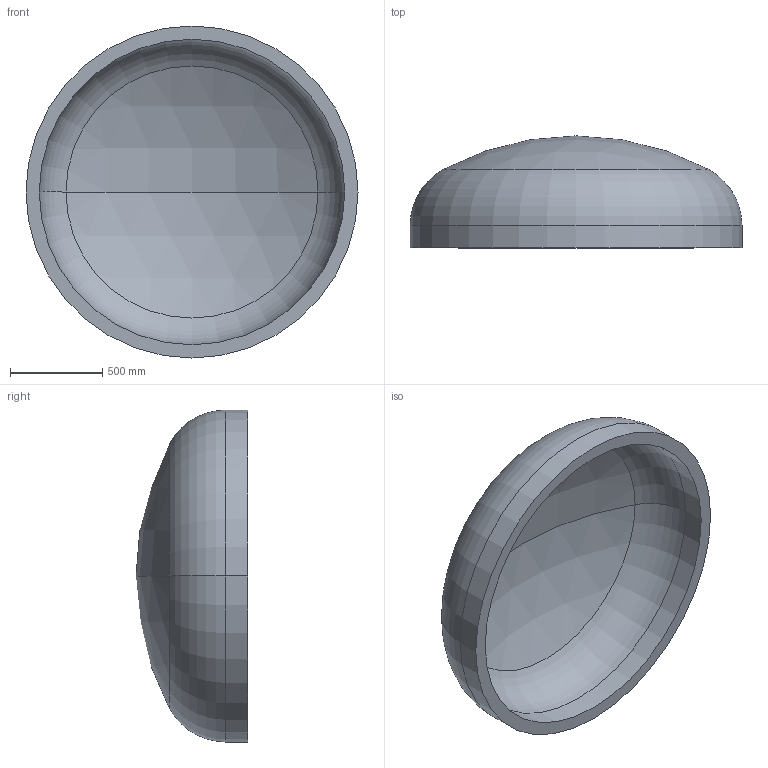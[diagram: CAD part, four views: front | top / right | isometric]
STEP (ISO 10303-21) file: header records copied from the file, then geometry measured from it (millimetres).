
FILE_DESCRIPTION (( 'STEP AP203' ), '1' );
FILE_NAME ('DIN 28013 Korbbogenform_-_Boden DIN 28013 - 1800 x 120 - I - s=72.step', '2016-07-01T12:38:35', ( '' ), ( '' ), 'SwSTEP 2.0', 'SolidWorks 2013', '' );
FILE_SCHEMA (( 'CONFIG_CONTROL_DESIGN' ));
Length unit declared in the file: millimetre
Products named in the file (1): DIN 28013 Korbbogenform_-_Boden DIN 28013 - 1800 x 120 - I - s=72
Bounding box: 1800 x 606.61 x 1800 mm (x, y, z)
Volume: 287453236.9 mm3; surface area: 8386531.6 mm2
Topology: 1 solids, 1 shells, 13 faces, 24 edges, 14 vertices
Faces by surface type: torus 4, cylinder 4, sphere 4, plane 1
Entity records: 407 total; most frequent: DIRECTION 72, CARTESIAN_POINT 52, ORIENTED_EDGE 48, AXIS2_PLACEMENT_3D 34, EDGE_CURVE 24, CIRCLE 20, VERTEX_POINT 14, EDGE_LOOP 14
